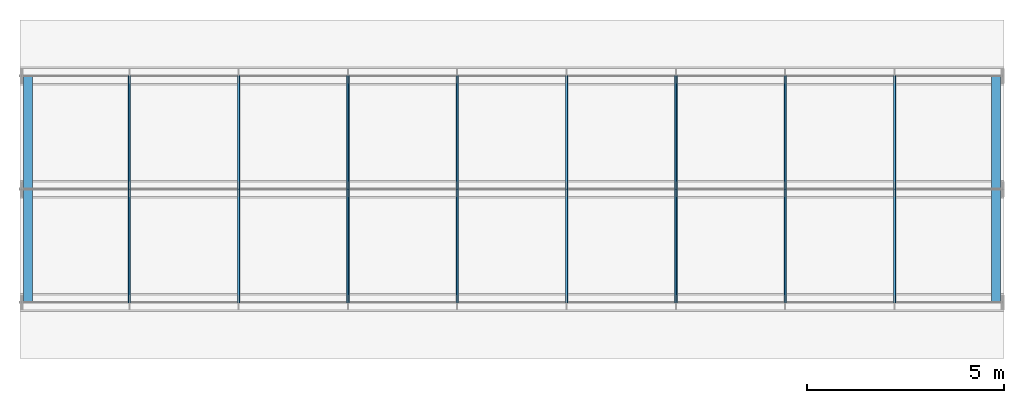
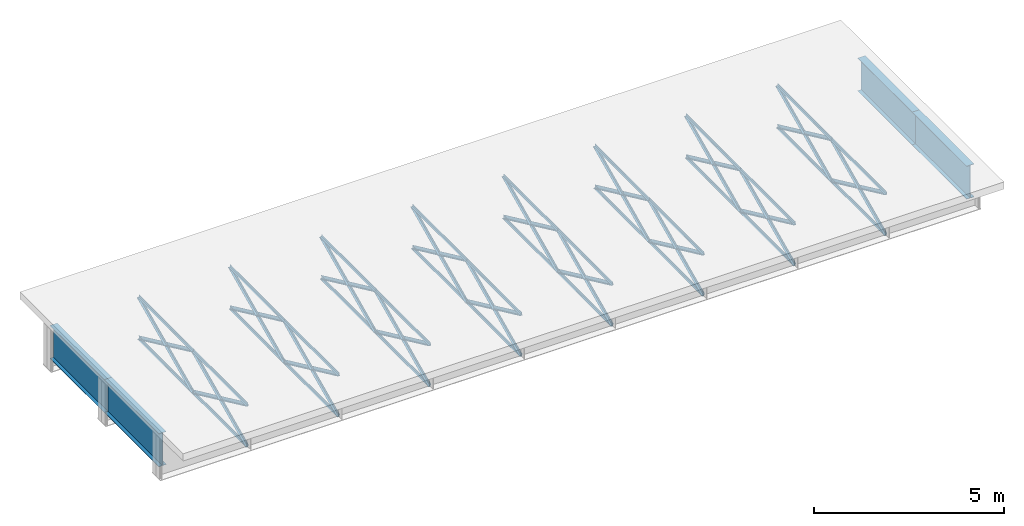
# One storey, part 1 of 8: 68 members.
"""IFC4 building model written with IfcOpenShell, lengths in metres."""

from ifc_helpers import new_model, si_unit, frame, origin, origin_with_axes, origin_2d_with_axis, place, context, subcontext, project, spatial, i_section, l_section, extrude, element, save


model = new_model("IFC4")

# Units and contexts
model_context = context("Model", 3, precision=1e-05, world=origin())
body_context = subcontext(model_context, "Body", "Model", "MODEL_VIEW")
ifc_project = project(units=[si_unit("LENGTHUNIT", "METRE"), si_unit("AREAUNIT", "SQUARE_METRE"), si_unit("VOLUMEUNIT", "CUBIC_METRE"), si_unit("PLANEANGLEUNIT", "RADIAN")], contexts=[model_context])

# Site, building, storey
site_placement = place(None, origin_with_axes())
site = spatial("IfcSite", under=ifc_project, at=site_placement, Name="Default Site")
building_placement = place(site_placement, origin_with_axes())
building = spatial("IfcBuilding", under=site, at=building_placement, Name="Bridge Structure")
storey_placement = place(building_placement, origin_with_axes())
storey = spatial("IfcBuildingStorey", under=building, at=storey_placement, Name="Superstructure")

# Members
for number, where, z_axis, x_axis, name in (
    (1, (0.2, -2.875, 0.1335), (0.0, 1.0, 0.0), (-1.0, 0.0, 0.0), "End Diaphragm"),
    (2, (0.2, 0.0, 0.1335), (0.0, 1.0, 0.0), (-1.0, 0.0, 0.0), "End Diaphragm"),
):
    element("IfcMember", number, at=place(storey_placement, frame(where, z_axis=z_axis, x_axis=x_axis)), inside=storey, Name=name, context=body_context, shape_type="SweptSolid", body=[
        extrude(i_section(OverallWidth=0.225, OverallDepth=1.068, WebThickness=0.016, FlangeThickness=0.012, at=origin_2d_with_axis()), origin_with_axes(), (0.0, 0.0, 1.0), 2.875),
    ])
for number, where, z_axis, x_axis, name in (
    (3, (2.7777777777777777, -2.875, 0.6675), (0.0, 0.9069874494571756, -0.4211576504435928), (-1.0, 0.0, 0.0), "Diagonal Brace"),
    (4, (2.7777777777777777, -2.875, -0.6675), (0.0, 0.9069874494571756, 0.4211576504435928), (-1.0, 0.0, 0.0), "Diagonal Brace"),
):
    element("IfcMember", number, at=place(storey_placement, frame(where, z_axis=z_axis, x_axis=x_axis)), inside=storey, Name=name, context=body_context, shape_type="SweptSolid", body=[
        extrude(l_section(Depth=0.1, Width=0.066, Thickness=0.008, at=origin_2d_with_axis()), origin_with_axes(), (0.0, 0.0, 1.0), 3.169834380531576),
    ])
for number, where, z_axis, x_axis, name in (
    (5, (2.7777777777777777, -2.875, -0.6675), (0.0, 1.0, 0.0), (-1.0, 0.0, 0.0), "Bottom Chord"),
    (6, (2.7777777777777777, -2.875, 0.6675), (0.0, 1.0, 0.0), (-1.0, 0.0, 0.0), "Top Chord"),
):
    element("IfcMember", number, at=place(storey_placement, frame(where, z_axis=z_axis, x_axis=x_axis)), inside=storey, Name=name, context=body_context, shape_type="SweptSolid", body=[
        extrude(l_section(Depth=0.08600000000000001, Width=0.053, Thickness=0.008, at=origin_2d_with_axis()), origin_with_axes(), (0.0, 0.0, 1.0), 2.875),
    ])
for number, where, z_axis, x_axis, name in (
    (7, (2.7777777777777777, 0.0, 0.6675), (0.0, 0.9069874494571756, -0.4211576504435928), (-1.0, 0.0, 0.0), "Diagonal Brace"),
    (8, (2.7777777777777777, 0.0, -0.6675), (0.0, 0.9069874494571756, 0.4211576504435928), (-1.0, 0.0, 0.0), "Diagonal Brace"),
):
    element("IfcMember", number, at=place(storey_placement, frame(where, z_axis=z_axis, x_axis=x_axis)), inside=storey, Name=name, context=body_context, shape_type="SweptSolid", body=[
        extrude(l_section(Depth=0.1, Width=0.066, Thickness=0.008, at=origin_2d_with_axis()), origin_with_axes(), (0.0, 0.0, 1.0), 3.169834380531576),
    ])
for number, where, z_axis, x_axis, name in (
    (9, (2.7777777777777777, 0.0, -0.6675), (0.0, 1.0, 0.0), (-1.0, 0.0, 0.0), "Bottom Chord"),
    (10, (2.7777777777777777, 0.0, 0.6675), (0.0, 1.0, 0.0), (-1.0, 0.0, 0.0), "Top Chord"),
):
    element("IfcMember", number, at=place(storey_placement, frame(where, z_axis=z_axis, x_axis=x_axis)), inside=storey, Name=name, context=body_context, shape_type="SweptSolid", body=[
        extrude(l_section(Depth=0.08600000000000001, Width=0.053, Thickness=0.008, at=origin_2d_with_axis()), origin_with_axes(), (0.0, 0.0, 1.0), 2.875),
    ])
for number, where, z_axis, x_axis, name in (
    (11, (5.555555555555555, -2.875, 0.6675), (0.0, 0.9069874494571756, -0.4211576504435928), (-1.0, 0.0, 0.0), "Diagonal Brace"),
    (12, (5.555555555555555, -2.875, -0.6675), (0.0, 0.9069874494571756, 0.4211576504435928), (-1.0, 0.0, 0.0), "Diagonal Brace"),
):
    element("IfcMember", number, at=place(storey_placement, frame(where, z_axis=z_axis, x_axis=x_axis)), inside=storey, Name=name, context=body_context, shape_type="SweptSolid", body=[
        extrude(l_section(Depth=0.1, Width=0.066, Thickness=0.008, at=origin_2d_with_axis()), origin_with_axes(), (0.0, 0.0, 1.0), 3.169834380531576),
    ])
for number, where, z_axis, x_axis, name in (
    (13, (5.555555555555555, -2.875, -0.6675), (0.0, 1.0, 0.0), (-1.0, 0.0, 0.0), "Bottom Chord"),
    (14, (5.555555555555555, -2.875, 0.6675), (0.0, 1.0, 0.0), (-1.0, 0.0, 0.0), "Top Chord"),
):
    element("IfcMember", number, at=place(storey_placement, frame(where, z_axis=z_axis, x_axis=x_axis)), inside=storey, Name=name, context=body_context, shape_type="SweptSolid", body=[
        extrude(l_section(Depth=0.08600000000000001, Width=0.053, Thickness=0.008, at=origin_2d_with_axis()), origin_with_axes(), (0.0, 0.0, 1.0), 2.875),
    ])
for number, where, z_axis, x_axis, name in (
    (15, (5.555555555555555, 0.0, 0.6675), (0.0, 0.9069874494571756, -0.4211576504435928), (-1.0, 0.0, 0.0), "Diagonal Brace"),
    (16, (5.555555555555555, 0.0, -0.6675), (0.0, 0.9069874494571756, 0.4211576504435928), (-1.0, 0.0, 0.0), "Diagonal Brace"),
):
    element("IfcMember", number, at=place(storey_placement, frame(where, z_axis=z_axis, x_axis=x_axis)), inside=storey, Name=name, context=body_context, shape_type="SweptSolid", body=[
        extrude(l_section(Depth=0.1, Width=0.066, Thickness=0.008, at=origin_2d_with_axis()), origin_with_axes(), (0.0, 0.0, 1.0), 3.169834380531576),
    ])
for number, where, z_axis, x_axis, name in (
    (17, (5.555555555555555, 0.0, -0.6675), (0.0, 1.0, 0.0), (-1.0, 0.0, 0.0), "Bottom Chord"),
    (18, (5.555555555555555, 0.0, 0.6675), (0.0, 1.0, 0.0), (-1.0, 0.0, 0.0), "Top Chord"),
):
    element("IfcMember", number, at=place(storey_placement, frame(where, z_axis=z_axis, x_axis=x_axis)), inside=storey, Name=name, context=body_context, shape_type="SweptSolid", body=[
        extrude(l_section(Depth=0.08600000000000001, Width=0.053, Thickness=0.008, at=origin_2d_with_axis()), origin_with_axes(), (0.0, 0.0, 1.0), 2.875),
    ])
for number, where, z_axis, x_axis, name in (
    (19, (8.333333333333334, -2.875, 0.6675), (0.0, 0.9069874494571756, -0.4211576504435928), (-1.0, 0.0, 0.0), "Diagonal Brace"),
    (20, (8.333333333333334, -2.875, -0.6675), (0.0, 0.9069874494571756, 0.4211576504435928), (-1.0, 0.0, 0.0), "Diagonal Brace"),
):
    element("IfcMember", number, at=place(storey_placement, frame(where, z_axis=z_axis, x_axis=x_axis)), inside=storey, Name=name, context=body_context, shape_type="SweptSolid", body=[
        extrude(l_section(Depth=0.1, Width=0.066, Thickness=0.008, at=origin_2d_with_axis()), origin_with_axes(), (0.0, 0.0, 1.0), 3.169834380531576),
    ])
for number, where, z_axis, x_axis, name in (
    (21, (8.333333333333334, -2.875, -0.6675), (0.0, 1.0, 0.0), (-1.0, 0.0, 0.0), "Bottom Chord"),
    (22, (8.333333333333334, -2.875, 0.6675), (0.0, 1.0, 0.0), (-1.0, 0.0, 0.0), "Top Chord"),
):
    element("IfcMember", number, at=place(storey_placement, frame(where, z_axis=z_axis, x_axis=x_axis)), inside=storey, Name=name, context=body_context, shape_type="SweptSolid", body=[
        extrude(l_section(Depth=0.08600000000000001, Width=0.053, Thickness=0.008, at=origin_2d_with_axis()), origin_with_axes(), (0.0, 0.0, 1.0), 2.875),
    ])
for number, where, z_axis, x_axis, name in (
    (23, (8.333333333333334, 0.0, 0.6675), (0.0, 0.9069874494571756, -0.4211576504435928), (-1.0, 0.0, 0.0), "Diagonal Brace"),
    (24, (8.333333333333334, 0.0, -0.6675), (0.0, 0.9069874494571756, 0.4211576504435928), (-1.0, 0.0, 0.0), "Diagonal Brace"),
):
    element("IfcMember", number, at=place(storey_placement, frame(where, z_axis=z_axis, x_axis=x_axis)), inside=storey, Name=name, context=body_context, shape_type="SweptSolid", body=[
        extrude(l_section(Depth=0.1, Width=0.066, Thickness=0.008, at=origin_2d_with_axis()), origin_with_axes(), (0.0, 0.0, 1.0), 3.169834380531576),
    ])
for number, where, z_axis, x_axis, name in (
    (25, (8.333333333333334, 0.0, -0.6675), (0.0, 1.0, 0.0), (-1.0, 0.0, 0.0), "Bottom Chord"),
    (26, (8.333333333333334, 0.0, 0.6675), (0.0, 1.0, 0.0), (-1.0, 0.0, 0.0), "Top Chord"),
):
    element("IfcMember", number, at=place(storey_placement, frame(where, z_axis=z_axis, x_axis=x_axis)), inside=storey, Name=name, context=body_context, shape_type="SweptSolid", body=[
        extrude(l_section(Depth=0.08600000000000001, Width=0.053, Thickness=0.008, at=origin_2d_with_axis()), origin_with_axes(), (0.0, 0.0, 1.0), 2.875),
    ])
for number, where, z_axis, x_axis, name in (
    (27, (11.11111111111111, -2.875, 0.6675), (0.0, 0.9069874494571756, -0.4211576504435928), (-1.0, 0.0, 0.0), "Diagonal Brace"),
    (28, (11.11111111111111, -2.875, -0.6675), (0.0, 0.9069874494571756, 0.4211576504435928), (-1.0, 0.0, 0.0), "Diagonal Brace"),
):
    element("IfcMember", number, at=place(storey_placement, frame(where, z_axis=z_axis, x_axis=x_axis)), inside=storey, Name=name, context=body_context, shape_type="SweptSolid", body=[
        extrude(l_section(Depth=0.1, Width=0.066, Thickness=0.008, at=origin_2d_with_axis()), origin_with_axes(), (0.0, 0.0, 1.0), 3.169834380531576),
    ])
for number, where, z_axis, x_axis, name in (
    (29, (11.11111111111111, -2.875, -0.6675), (0.0, 1.0, 0.0), (-1.0, 0.0, 0.0), "Bottom Chord"),
    (30, (11.11111111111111, -2.875, 0.6675), (0.0, 1.0, 0.0), (-1.0, 0.0, 0.0), "Top Chord"),
):
    element("IfcMember", number, at=place(storey_placement, frame(where, z_axis=z_axis, x_axis=x_axis)), inside=storey, Name=name, context=body_context, shape_type="SweptSolid", body=[
        extrude(l_section(Depth=0.08600000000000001, Width=0.053, Thickness=0.008, at=origin_2d_with_axis()), origin_with_axes(), (0.0, 0.0, 1.0), 2.875),
    ])
for number, where, z_axis, x_axis, name in (
    (31, (11.11111111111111, 0.0, 0.6675), (0.0, 0.9069874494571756, -0.4211576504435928), (-1.0, 0.0, 0.0), "Diagonal Brace"),
    (32, (11.11111111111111, 0.0, -0.6675), (0.0, 0.9069874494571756, 0.4211576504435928), (-1.0, 0.0, 0.0), "Diagonal Brace"),
):
    element("IfcMember", number, at=place(storey_placement, frame(where, z_axis=z_axis, x_axis=x_axis)), inside=storey, Name=name, context=body_context, shape_type="SweptSolid", body=[
        extrude(l_section(Depth=0.1, Width=0.066, Thickness=0.008, at=origin_2d_with_axis()), origin_with_axes(), (0.0, 0.0, 1.0), 3.169834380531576),
    ])
for number, where, z_axis, x_axis, name in (
    (33, (11.11111111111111, 0.0, -0.6675), (0.0, 1.0, 0.0), (-1.0, 0.0, 0.0), "Bottom Chord"),
    (34, (11.11111111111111, 0.0, 0.6675), (0.0, 1.0, 0.0), (-1.0, 0.0, 0.0), "Top Chord"),
):
    element("IfcMember", number, at=place(storey_placement, frame(where, z_axis=z_axis, x_axis=x_axis)), inside=storey, Name=name, context=body_context, shape_type="SweptSolid", body=[
        extrude(l_section(Depth=0.08600000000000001, Width=0.053, Thickness=0.008, at=origin_2d_with_axis()), origin_with_axes(), (0.0, 0.0, 1.0), 2.875),
    ])
for number, where, z_axis, x_axis, name in (
    (35, (13.88888888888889, -2.875, 0.6675), (0.0, 0.9069874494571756, -0.4211576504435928), (-1.0, 0.0, 0.0), "Diagonal Brace"),
    (36, (13.88888888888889, -2.875, -0.6675), (0.0, 0.9069874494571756, 0.4211576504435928), (-1.0, 0.0, 0.0), "Diagonal Brace"),
):
    element("IfcMember", number, at=place(storey_placement, frame(where, z_axis=z_axis, x_axis=x_axis)), inside=storey, Name=name, context=body_context, shape_type="SweptSolid", body=[
        extrude(l_section(Depth=0.1, Width=0.066, Thickness=0.008, at=origin_2d_with_axis()), origin_with_axes(), (0.0, 0.0, 1.0), 3.169834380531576),
    ])
for number, where, z_axis, x_axis, name in (
    (37, (13.88888888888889, -2.875, -0.6675), (0.0, 1.0, 0.0), (-1.0, 0.0, 0.0), "Bottom Chord"),
    (38, (13.88888888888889, -2.875, 0.6675), (0.0, 1.0, 0.0), (-1.0, 0.0, 0.0), "Top Chord"),
):
    element("IfcMember", number, at=place(storey_placement, frame(where, z_axis=z_axis, x_axis=x_axis)), inside=storey, Name=name, context=body_context, shape_type="SweptSolid", body=[
        extrude(l_section(Depth=0.08600000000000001, Width=0.053, Thickness=0.008, at=origin_2d_with_axis()), origin_with_axes(), (0.0, 0.0, 1.0), 2.875),
    ])
for number, where, z_axis, x_axis, name in (
    (39, (13.88888888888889, 0.0, 0.6675), (0.0, 0.9069874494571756, -0.4211576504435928), (-1.0, 0.0, 0.0), "Diagonal Brace"),
    (40, (13.88888888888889, 0.0, -0.6675), (0.0, 0.9069874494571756, 0.4211576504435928), (-1.0, 0.0, 0.0), "Diagonal Brace"),
):
    element("IfcMember", number, at=place(storey_placement, frame(where, z_axis=z_axis, x_axis=x_axis)), inside=storey, Name=name, context=body_context, shape_type="SweptSolid", body=[
        extrude(l_section(Depth=0.1, Width=0.066, Thickness=0.008, at=origin_2d_with_axis()), origin_with_axes(), (0.0, 0.0, 1.0), 3.169834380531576),
    ])
for number, where, z_axis, x_axis, name in (
    (41, (13.88888888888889, 0.0, -0.6675), (0.0, 1.0, 0.0), (-1.0, 0.0, 0.0), "Bottom Chord"),
    (42, (13.88888888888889, 0.0, 0.6675), (0.0, 1.0, 0.0), (-1.0, 0.0, 0.0), "Top Chord"),
):
    element("IfcMember", number, at=place(storey_placement, frame(where, z_axis=z_axis, x_axis=x_axis)), inside=storey, Name=name, context=body_context, shape_type="SweptSolid", body=[
        extrude(l_section(Depth=0.08600000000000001, Width=0.053, Thickness=0.008, at=origin_2d_with_axis()), origin_with_axes(), (0.0, 0.0, 1.0), 2.875),
    ])
for number, where, z_axis, x_axis, name in (
    (43, (16.666666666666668, -2.875, 0.6675), (0.0, 0.9069874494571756, -0.4211576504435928), (-1.0, 0.0, 0.0), "Diagonal Brace"),
    (44, (16.666666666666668, -2.875, -0.6675), (0.0, 0.9069874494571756, 0.4211576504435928), (-1.0, 0.0, 0.0), "Diagonal Brace"),
):
    element("IfcMember", number, at=place(storey_placement, frame(where, z_axis=z_axis, x_axis=x_axis)), inside=storey, Name=name, context=body_context, shape_type="SweptSolid", body=[
        extrude(l_section(Depth=0.1, Width=0.066, Thickness=0.008, at=origin_2d_with_axis()), origin_with_axes(), (0.0, 0.0, 1.0), 3.169834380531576),
    ])
for number, where, z_axis, x_axis, name in (
    (45, (16.666666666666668, -2.875, -0.6675), (0.0, 1.0, 0.0), (-1.0, 0.0, 0.0), "Bottom Chord"),
    (46, (16.666666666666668, -2.875, 0.6675), (0.0, 1.0, 0.0), (-1.0, 0.0, 0.0), "Top Chord"),
):
    element("IfcMember", number, at=place(storey_placement, frame(where, z_axis=z_axis, x_axis=x_axis)), inside=storey, Name=name, context=body_context, shape_type="SweptSolid", body=[
        extrude(l_section(Depth=0.08600000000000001, Width=0.053, Thickness=0.008, at=origin_2d_with_axis()), origin_with_axes(), (0.0, 0.0, 1.0), 2.875),
    ])
for number, where, z_axis, x_axis, name in (
    (47, (16.666666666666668, 0.0, 0.6675), (0.0, 0.9069874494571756, -0.4211576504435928), (-1.0, 0.0, 0.0), "Diagonal Brace"),
    (48, (16.666666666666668, 0.0, -0.6675), (0.0, 0.9069874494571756, 0.4211576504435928), (-1.0, 0.0, 0.0), "Diagonal Brace"),
):
    element("IfcMember", number, at=place(storey_placement, frame(where, z_axis=z_axis, x_axis=x_axis)), inside=storey, Name=name, context=body_context, shape_type="SweptSolid", body=[
        extrude(l_section(Depth=0.1, Width=0.066, Thickness=0.008, at=origin_2d_with_axis()), origin_with_axes(), (0.0, 0.0, 1.0), 3.169834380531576),
    ])
for number, where, z_axis, x_axis, name in (
    (49, (16.666666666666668, 0.0, -0.6675), (0.0, 1.0, 0.0), (-1.0, 0.0, 0.0), "Bottom Chord"),
    (50, (16.666666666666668, 0.0, 0.6675), (0.0, 1.0, 0.0), (-1.0, 0.0, 0.0), "Top Chord"),
):
    element("IfcMember", number, at=place(storey_placement, frame(where, z_axis=z_axis, x_axis=x_axis)), inside=storey, Name=name, context=body_context, shape_type="SweptSolid", body=[
        extrude(l_section(Depth=0.08600000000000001, Width=0.053, Thickness=0.008, at=origin_2d_with_axis()), origin_with_axes(), (0.0, 0.0, 1.0), 2.875),
    ])
for number, where, z_axis, x_axis, name in (
    (51, (19.444444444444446, -2.875, 0.6675), (0.0, 0.9069874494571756, -0.4211576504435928), (-1.0, 0.0, 0.0), "Diagonal Brace"),
    (52, (19.444444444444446, -2.875, -0.6675), (0.0, 0.9069874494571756, 0.4211576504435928), (-1.0, 0.0, 0.0), "Diagonal Brace"),
):
    element("IfcMember", number, at=place(storey_placement, frame(where, z_axis=z_axis, x_axis=x_axis)), inside=storey, Name=name, context=body_context, shape_type="SweptSolid", body=[
        extrude(l_section(Depth=0.1, Width=0.066, Thickness=0.008, at=origin_2d_with_axis()), origin_with_axes(), (0.0, 0.0, 1.0), 3.169834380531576),
    ])
for number, where, z_axis, x_axis, name in (
    (53, (19.444444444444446, -2.875, -0.6675), (0.0, 1.0, 0.0), (-1.0, 0.0, 0.0), "Bottom Chord"),
    (54, (19.444444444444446, -2.875, 0.6675), (0.0, 1.0, 0.0), (-1.0, 0.0, 0.0), "Top Chord"),
):
    element("IfcMember", number, at=place(storey_placement, frame(where, z_axis=z_axis, x_axis=x_axis)), inside=storey, Name=name, context=body_context, shape_type="SweptSolid", body=[
        extrude(l_section(Depth=0.08600000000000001, Width=0.053, Thickness=0.008, at=origin_2d_with_axis()), origin_with_axes(), (0.0, 0.0, 1.0), 2.875),
    ])
for number, where, z_axis, x_axis, name in (
    (55, (19.444444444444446, 0.0, 0.6675), (0.0, 0.9069874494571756, -0.4211576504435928), (-1.0, 0.0, 0.0), "Diagonal Brace"),
    (56, (19.444444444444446, 0.0, -0.6675), (0.0, 0.9069874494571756, 0.4211576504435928), (-1.0, 0.0, 0.0), "Diagonal Brace"),
):
    element("IfcMember", number, at=place(storey_placement, frame(where, z_axis=z_axis, x_axis=x_axis)), inside=storey, Name=name, context=body_context, shape_type="SweptSolid", body=[
        extrude(l_section(Depth=0.1, Width=0.066, Thickness=0.008, at=origin_2d_with_axis()), origin_with_axes(), (0.0, 0.0, 1.0), 3.169834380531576),
    ])
for number, where, z_axis, x_axis, name in (
    (57, (19.444444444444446, 0.0, -0.6675), (0.0, 1.0, 0.0), (-1.0, 0.0, 0.0), "Bottom Chord"),
    (58, (19.444444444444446, 0.0, 0.6675), (0.0, 1.0, 0.0), (-1.0, 0.0, 0.0), "Top Chord"),
):
    element("IfcMember", number, at=place(storey_placement, frame(where, z_axis=z_axis, x_axis=x_axis)), inside=storey, Name=name, context=body_context, shape_type="SweptSolid", body=[
        extrude(l_section(Depth=0.08600000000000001, Width=0.053, Thickness=0.008, at=origin_2d_with_axis()), origin_with_axes(), (0.0, 0.0, 1.0), 2.875),
    ])
for number, where, z_axis, x_axis, name in (
    (59, (22.22222222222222, -2.875, 0.6675), (0.0, 0.9069874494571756, -0.4211576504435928), (-1.0, 0.0, 0.0), "Diagonal Brace"),
    (60, (22.22222222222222, -2.875, -0.6675), (0.0, 0.9069874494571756, 0.4211576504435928), (-1.0, 0.0, 0.0), "Diagonal Brace"),
):
    element("IfcMember", number, at=place(storey_placement, frame(where, z_axis=z_axis, x_axis=x_axis)), inside=storey, Name=name, context=body_context, shape_type="SweptSolid", body=[
        extrude(l_section(Depth=0.1, Width=0.066, Thickness=0.008, at=origin_2d_with_axis()), origin_with_axes(), (0.0, 0.0, 1.0), 3.169834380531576),
    ])
for number, where, z_axis, x_axis, name in (
    (61, (22.22222222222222, -2.875, -0.6675), (0.0, 1.0, 0.0), (-1.0, 0.0, 0.0), "Bottom Chord"),
    (62, (22.22222222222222, -2.875, 0.6675), (0.0, 1.0, 0.0), (-1.0, 0.0, 0.0), "Top Chord"),
):
    element("IfcMember", number, at=place(storey_placement, frame(where, z_axis=z_axis, x_axis=x_axis)), inside=storey, Name=name, context=body_context, shape_type="SweptSolid", body=[
        extrude(l_section(Depth=0.08600000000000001, Width=0.053, Thickness=0.008, at=origin_2d_with_axis()), origin_with_axes(), (0.0, 0.0, 1.0), 2.875),
    ])
for number, where, z_axis, x_axis, name in (
    (63, (22.22222222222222, 0.0, 0.6675), (0.0, 0.9069874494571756, -0.4211576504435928), (-1.0, 0.0, 0.0), "Diagonal Brace"),
    (64, (22.22222222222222, 0.0, -0.6675), (0.0, 0.9069874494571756, 0.4211576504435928), (-1.0, 0.0, 0.0), "Diagonal Brace"),
):
    element("IfcMember", number, at=place(storey_placement, frame(where, z_axis=z_axis, x_axis=x_axis)), inside=storey, Name=name, context=body_context, shape_type="SweptSolid", body=[
        extrude(l_section(Depth=0.1, Width=0.066, Thickness=0.008, at=origin_2d_with_axis()), origin_with_axes(), (0.0, 0.0, 1.0), 3.169834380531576),
    ])
for number, where, z_axis, x_axis, name in (
    (65, (22.22222222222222, 0.0, -0.6675), (0.0, 1.0, 0.0), (-1.0, 0.0, 0.0), "Bottom Chord"),
    (66, (22.22222222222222, 0.0, 0.6675), (0.0, 1.0, 0.0), (-1.0, 0.0, 0.0), "Top Chord"),
):
    element("IfcMember", number, at=place(storey_placement, frame(where, z_axis=z_axis, x_axis=x_axis)), inside=storey, Name=name, context=body_context, shape_type="SweptSolid", body=[
        extrude(l_section(Depth=0.08600000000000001, Width=0.053, Thickness=0.008, at=origin_2d_with_axis()), origin_with_axes(), (0.0, 0.0, 1.0), 2.875),
    ])
for number, where, z_axis, x_axis, name in (
    (67, (24.8, -2.875, 0.1335), (0.0, 1.0, 0.0), (-1.0, 0.0, 0.0), "End Diaphragm"),
    (68, (24.8, 0.0, 0.1335), (0.0, 1.0, 0.0), (-1.0, 0.0, 0.0), "End Diaphragm"),
):
    element("IfcMember", number, at=place(storey_placement, frame(where, z_axis=z_axis, x_axis=x_axis)), inside=storey, Name=name, context=body_context, shape_type="SweptSolid", body=[
        extrude(i_section(OverallWidth=0.225, OverallDepth=1.068, WebThickness=0.016, FlangeThickness=0.012, at=origin_2d_with_axis()), origin_with_axes(), (0.0, 0.0, 1.0), 2.875),
    ])

save(model, "model.ifc")
